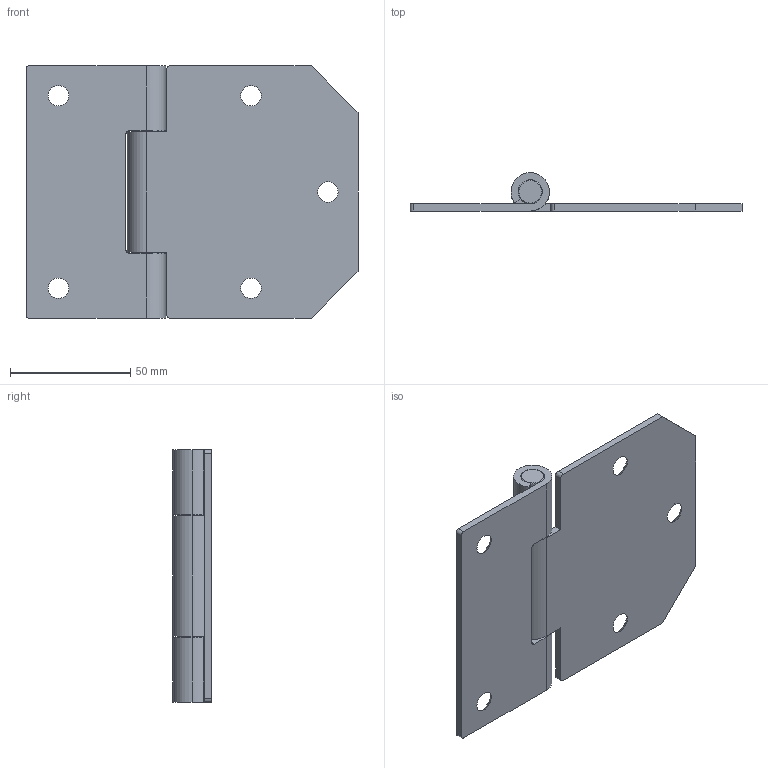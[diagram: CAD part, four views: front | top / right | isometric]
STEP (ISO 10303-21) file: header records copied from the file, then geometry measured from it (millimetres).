
FILE_DESCRIPTION (( 'STEP AP203' ), '1' );
FILE_NAME ('XG02-074-2.STEP', '2023-12-11T02:51:25', ( '' ), ( '' ), 'SwSTEP 2.0', 'SolidWorks 2020', '' );
FILE_SCHEMA (( 'CONFIG_CONTROL_DESIGN' ));
Length unit declared in the file: millimetre
Products named in the file (1): XG02-074-2
Bounding box: 138 x 16 x 105 mm (x, y, z)
Volume: 57079.1 mm3; surface area: 33893.6 mm2
Topology: 1 solids, 1 shells, 62 faces, 178 edges, 116 vertices
Faces by surface type: cylinder 24, plane 24, cone 14
Entity records: 2159 total; most frequent: DIRECTION 384, CARTESIAN_POINT 357, ORIENTED_EDGE 356, EDGE_CURVE 178, AXIS2_PLACEMENT_3D 143, VERTEX_POINT 116, LINE 98, VECTOR 98
